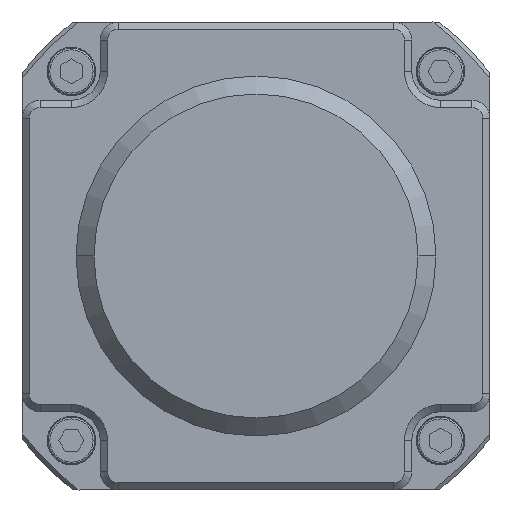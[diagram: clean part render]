
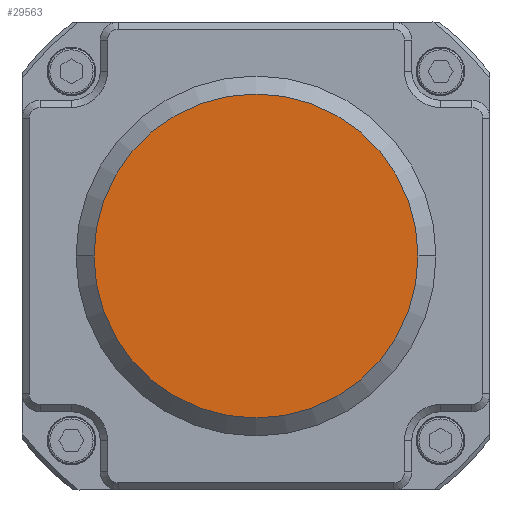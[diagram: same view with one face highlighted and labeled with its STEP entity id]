
A CAD part, front view. The second image highlights one B-rep face of the part: STEP entity #29563.
In plain terms, the highlighted planar face has unit normal (0, -1, 0) as drawn and (0, 1, 0) by its records, which use the part's own axes.
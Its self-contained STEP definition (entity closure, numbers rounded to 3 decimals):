
#27484=CARTESIAN_POINT('',(0.,166.,0.));
#27485=DIRECTION('',(0.,1.,0.));
#27486=DIRECTION('',(-1.,0.,0.));
#27487=AXIS2_PLACEMENT_3D('',#27484,#27485,#27486);
#27489=CARTESIAN_POINT('',(0.,166.,0.));
#27490=DIRECTION('',(0.,1.,0.));
#27491=DIRECTION('',(1.,0.,0.));
#27492=AXIS2_PLACEMENT_3D('',#27489,#27490,#27491);
#28109=CARTESIAN_POINT('',(-45.,166.,0.));
#28110=CARTESIAN_POINT('',(45.,166.,0.));
#28111=VERTEX_POINT('',#28109);
#28112=VERTEX_POINT('',#28110);
#29553=CARTESIAN_POINT('',(0.,166.,0.));
#29554=DIRECTION('',(0.,1.,0.));
#29555=DIRECTION('',(1.,0.,0.));
#29556=AXIS2_PLACEMENT_3D('',#29553,#29554,#29555);
#29557=PLANE('',#29556);
#29559=ORIENTED_EDGE('',*,*,#29558,.F.);
#29560=ORIENTED_EDGE('',*,*,#29543,.F.);
#29561=EDGE_LOOP('',(#29559,#29560));
#29562=FACE_OUTER_BOUND('',#29561,.F.);
#29563=ADVANCED_FACE('',(#29562),#29557,.T.);
#27488=CIRCLE('',#27487,45.);
#27493=CIRCLE('',#27492,45.);
#29543=EDGE_CURVE('',#28112,#28111,#27493,.T.);
#29558=EDGE_CURVE('',#28111,#28112,#27488,.T.);
